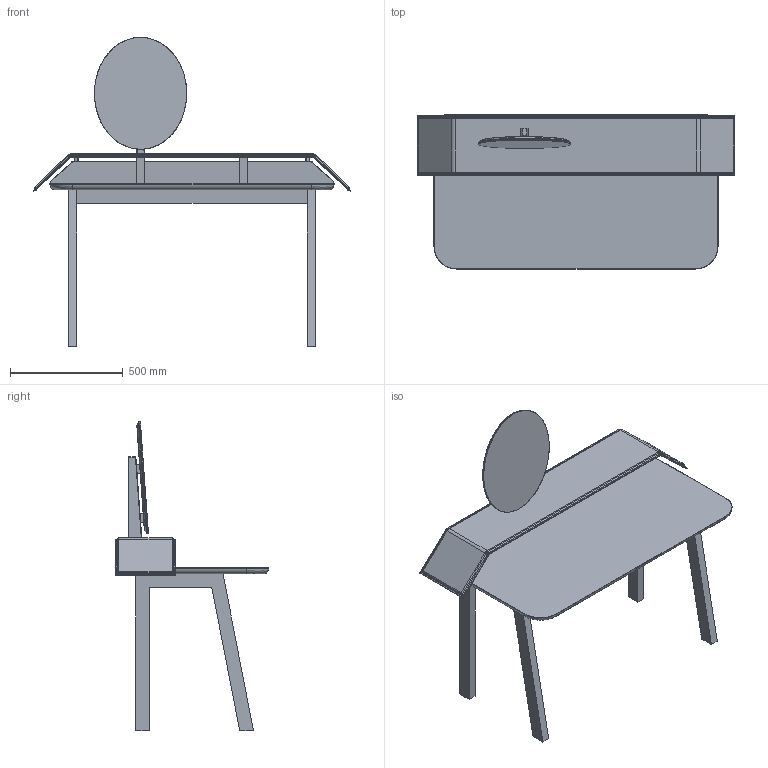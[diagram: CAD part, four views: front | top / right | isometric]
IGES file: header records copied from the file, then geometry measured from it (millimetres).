
Start section: SolidWorks IGES file using analytic representation for surfaces
Global section: file name: C:\Users\Simone\Desktop\Simone\IUAV\Tirocinio\3D da fare\(consolle) Tolda\Tolda.IGS; native system: SolidWorks 2013; preprocessor: SolidWorks 2013; author: Simone; date: 150306.110636; units: millimetre
Bounding box: 1408.48 x 682.5 x 1370.33 mm (x, y, z)
Surface area: 4330458.5 mm2 (no closed solid volume)
Topology: 0 solids, 0 shells, 269 faces, 2109 edges, 2099 vertices
Faces by surface type: bspline 158, revolution 111
